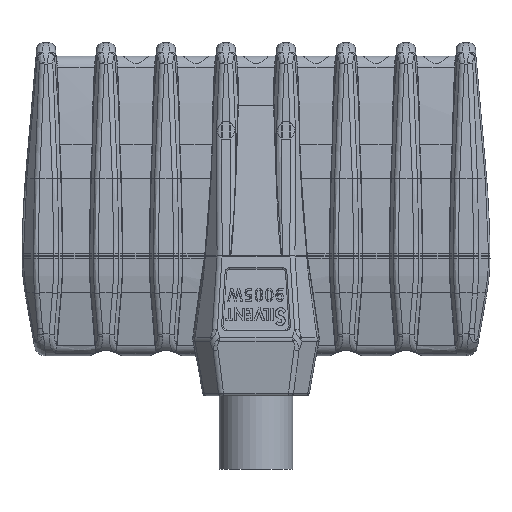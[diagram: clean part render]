
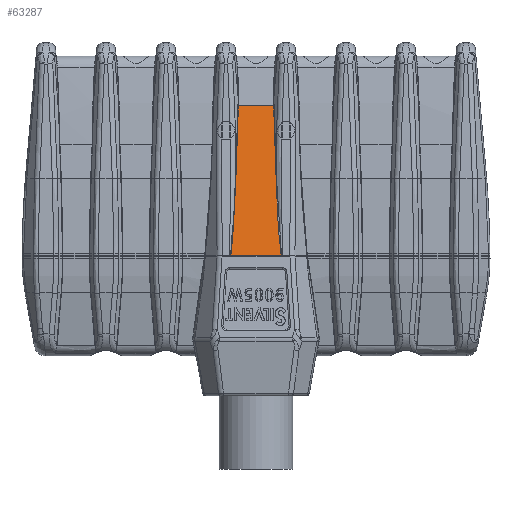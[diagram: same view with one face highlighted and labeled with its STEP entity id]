
A CAD part, front view. The second image highlights one B-rep face of the part: STEP entity #63287.
In plain terms, the highlighted planar face has unit normal (0, -0.985, 0.174).
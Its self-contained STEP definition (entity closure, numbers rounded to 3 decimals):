
#50625 =( BOUNDED_CURVE ( )  B_SPLINE_CURVE ( 3, ( #50833, #50832, #50837, #50810 ),
 .UNSPECIFIED., .F., .F. ) 
 B_SPLINE_CURVE_WITH_KNOTS ( ( 4, 4 ),
 ( 5.415, 6.273 ),
 .UNSPECIFIED. ) 
 CURVE ( )  GEOMETRIC_REPRESENTATION_ITEM ( )  RATIONAL_B_SPLINE_CURVE ( ( 1., 0.94, 0.94, 1. ) ) 
 REPRESENTATION_ITEM ( '' )  );
#50780 = CARTESIAN_POINT ( 'NONE',  ( 8.417, 4.731, 5.21 ) ) ;
#50782 = FACE_OUTER_BOUND ( 'NONE', #63296, .T. ) ;
#50788 = AXIS2_PLACEMENT_3D ( 'NONE', #50843, #50842, #50841 ) ;
#50797 = CARTESIAN_POINT ( 'NONE',  ( 3.127, 4.764, 5.397 ) ) ;
#50798 = LINE ( 'NONE', #50797, #50816 ) ;
#50810 = CARTESIAN_POINT ( 'NONE',  ( 1.863, 0.762, -17.301 ) ) ;
#50811 = VECTOR ( 'NONE', #50831, 1000. ) ;
#50812 = PLANE ( 'NONE',  #50788 ) ;
#50813 = CARTESIAN_POINT ( 'NONE',  ( 8.418, 4.729, 5.2 ) ) ;
#50814 = LINE ( 'NONE', #50813, #50811 ) ;
#50815 = DIRECTION ( 'NONE',  ( -0.033, -0.174, -0.984 ) ) ;
#50816 = VECTOR ( 'NONE', #50815, 1000. ) ;
#50819 = CARTESIAN_POINT ( 'NONE',  ( 2.732, 2.698, -6.322 ) ) ;
#50831 = DIRECTION ( 'NONE',  ( -0.033, 0.174, 0.984 ) ) ;
#50832 = CARTESIAN_POINT ( 'NONE',  ( 2.496, 1.465, -13.31 ) ) ;
#50833 = CARTESIAN_POINT ( 'NONE',  ( 2.732, 2.698, -6.322 ) ) ;
#50834 = CARTESIAN_POINT ( 'NONE',  ( 3.121, 4.731, 5.21 ) ) ;
#50837 = CARTESIAN_POINT ( 'NONE',  ( 2.188, 0.779, -17.205 ) ) ;
#50838 = DIRECTION ( 'NONE',  ( -1., 0., 0. ) ) ;
#50839 = VECTOR ( 'NONE', #50838, 1000. ) ;
#50840 = CARTESIAN_POINT ( 'NONE',  ( 8.769, 4.731, 5.21 ) ) ;
#50841 = DIRECTION ( 'NONE',  ( 0., -0.174, -0.985 ) ) ;
#50842 = DIRECTION ( 'NONE',  ( 0., -0.985, 0.174 ) ) ;
#50843 = CARTESIAN_POINT ( 'NONE',  ( 8.769, 4.731, 5.212 ) ) ;
#50844 = LINE ( 'NONE', #50840, #50839 ) ;
#50871 = CARTESIAN_POINT ( 'NONE',  ( 1.863, 0.762, -17.301 ) ) ;
#51084 = DIRECTION ( 'NONE',  ( 1., 0., 0. ) ) ;
#51085 = VECTOR ( 'NONE', #51084, 1000. ) ;
#51086 = CARTESIAN_POINT ( 'NONE',  ( 11.315, 0.762, -17.301 ) ) ;
#51087 = LINE ( 'NONE', #51086, #51085 ) ;
#59772 = VERTEX_POINT ( 'NONE', #109637 ) ;
#59783 = VERTEX_POINT ( 'NONE', #109734 ) ;
#59787 = EDGE_CURVE ( 'NONE', #59772, #59783, #109847, .T. ) ;
#63283 = VERTEX_POINT ( 'NONE', #50780 ) ;
#63285 = EDGE_CURVE ( 'NONE', #63298, #63286, #50798, .T. ) ;
#63286 = VERTEX_POINT ( 'NONE', #50819 ) ;
#63287 = ADVANCED_FACE ( 'NONE', ( #50782 ), #50812, .T. ) ;
#63288 = EDGE_CURVE ( 'NONE', #63283, #63298, #50844, .T. ) ;
#63289 = ORIENTED_EDGE ( 'NONE', *, *, #63355, .T. ) ;
#63290 = ORIENTED_EDGE ( 'NONE', *, *, #63297, .T. ) ;
#63296 = EDGE_LOOP ( 'NONE', ( #63290, #63361, #63351, #63354, #63289, #63353 ) ) ;
#63297 = EDGE_CURVE ( 'NONE', #59783, #63283, #50814, .T. ) ;
#63298 = VERTEX_POINT ( 'NONE', #50834 ) ;
#63308 = VERTEX_POINT ( 'NONE', #50871 ) ;
#63351 = ORIENTED_EDGE ( 'NONE', *, *, #63285, .T. ) ;
#63352 = EDGE_CURVE ( 'NONE', #63286, #63308, #50625, .T. ) ;
#63353 = ORIENTED_EDGE ( 'NONE', *, *, #59787, .T. ) ;
#63354 = ORIENTED_EDGE ( 'NONE', *, *, #63352, .T. ) ;
#63355 = EDGE_CURVE ( 'NONE', #63308, #59772, #51087, .T. ) ;
#63361 = ORIENTED_EDGE ( 'NONE', *, *, #63288, .T. ) ;
#109637 = CARTESIAN_POINT ( 'NONE',  ( 9.675, 0.762, -17.301 ) ) ;
#109734 = CARTESIAN_POINT ( 'NONE',  ( 8.807, 2.698, -6.322 ) ) ;
#109828 = CARTESIAN_POINT ( 'NONE',  ( 8.807, 2.698, -6.322 ) ) ;
#109830 = CARTESIAN_POINT ( 'NONE',  ( 9.042, 1.465, -13.31 ) ) ;
#109833 = CARTESIAN_POINT ( 'NONE',  ( 9.351, 0.779, -17.205 ) ) ;
#109836 = CARTESIAN_POINT ( 'NONE',  ( 9.675, 0.762, -17.301 ) ) ;
#109847 =( BOUNDED_CURVE ( )  B_SPLINE_CURVE ( 3, ( #109836, #109833, #109830, #109828 ),
 .UNSPECIFIED., .F., .F. ) 
 B_SPLINE_CURVE_WITH_KNOTS ( ( 4, 4 ),
 ( 3.152, 4.01 ),
 .UNSPECIFIED. ) 
 CURVE ( )  GEOMETRIC_REPRESENTATION_ITEM ( )  RATIONAL_B_SPLINE_CURVE ( ( 1., 0.94, 0.94, 1. ) ) 
 REPRESENTATION_ITEM ( '' )  );
